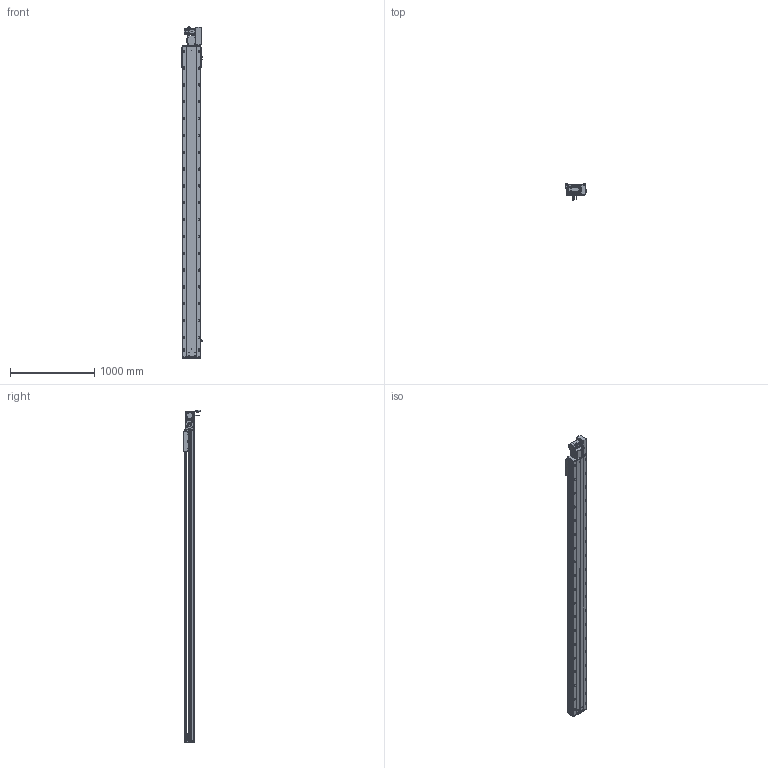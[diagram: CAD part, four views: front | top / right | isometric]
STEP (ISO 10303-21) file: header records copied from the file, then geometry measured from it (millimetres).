
FILE_DESCRIPTION (( 'STEP AP203' ), '1' );
FILE_NAME ('RY220-T-300-RK.SLDASM_3350.step', '2022-07-25T08:26:19', ( '' ), ( '' ), 'SwSTEP 2.0', 'SolidWorks 2016', '' );
FILE_SCHEMA (( 'CONFIG_CONTROL_DESIGN' ));
Length unit declared in the file: millimetre
Products named in the file (14): RY220-T-湍謫欶(鍼踢); RY220-T-蛌殏萇儂假蚾啣(750W); 110A-T-肮祭謫釱傷裔; RY220-T-300-RK.SLDASM_3350; 覜茼ん672; 怢湛750W_ECMA-CX0807ES; RY220-俋离672覜茼んえ; RY220-T-300-奻裔啣_3350; RY220翋肮祭謫裔啣; RY220翋肮祭謫釱; RY220-同步轮副支撑座6304×2; RY220-T菁釱-300_3350; 滅袉蝶18-15; RY220圉猾敕々湍臏賑輸
Assembly tree (18 placements, depth 2):
  RY220-T-300-RK.SLDASM_3350
    RY220-T菁釱-300_3350
    RY220翋肮祭謫釱
    覜茼ん672  x3
    RY220圉猾敕々湍臏賑輸
    RY220-T-300-奻裔啣_3350
    RY220-俋离672覜茼んえ
    滅袉蝶18-15  x3
    RY220翋肮祭謫裔啣  x2
    110A-T-肮祭謫釱傷裔
    怢湛750W_ECMA-CX0807ES
    RY220-T-湍謫欶(鍼踢)
    RY220-T-蛌殏萇儂假蚾啣(750W)
    RY220-同步轮副支撑座6304×2
Bounding box: 238.7 x 198.77 x 3945.24 mm (x, y, z)
Volume: 27468394 mm3; surface area: 8537511.6 mm2
Topology: 19 solids, 19 shells, 3104 faces, 8591 edges, 5364 vertices
Faces by surface type: cylinder 1548, plane 1069, cone 405, bspline 56, sphere 16, torus 10
Entity records: 103555 total; most frequent: CARTESIAN_POINT 29131, ORIENTED_EDGE 15354, DIRECTION 14900, EDGE_CURVE 7677, AXIS2_PLACEMENT_3D 5402, VERTEX_POINT 4988, VECTOR 4096, LINE 4096
